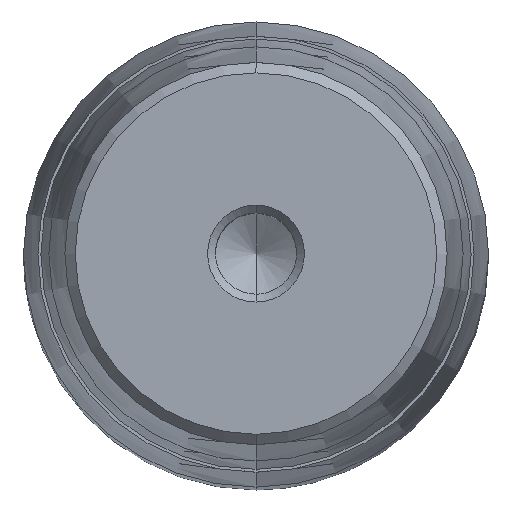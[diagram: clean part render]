
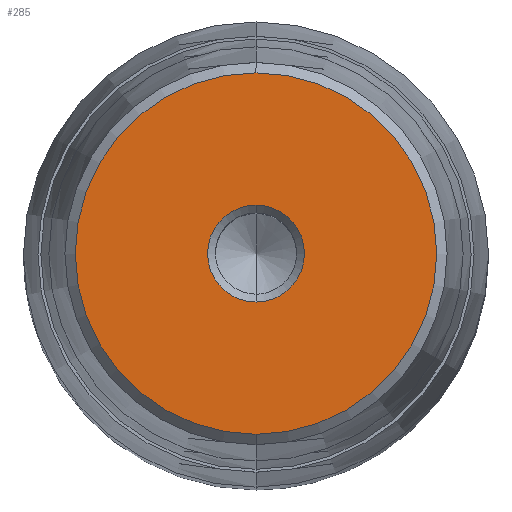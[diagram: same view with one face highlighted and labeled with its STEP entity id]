
A CAD part, top view. The second image highlights one B-rep face of the part: STEP entity #285.
In plain terms, the highlighted planar face has unit normal (0, 0, 1).
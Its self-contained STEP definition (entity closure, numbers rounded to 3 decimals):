
#164=CARTESIAN_POINT('Axis2P3D Location',(0.,0.,58.)) ;
#168=CARTESIAN_POINT('Vertex',(5.,0.,58.)) ;
#170=CARTESIAN_POINT('Vertex',(0.,-5.,58.)) ;
#173=CARTESIAN_POINT('Axis2P3D Location',(0.,0.,58.)) ;
#177=CARTESIAN_POINT('Vertex',(0.,5.,58.)) ;
#228=CARTESIAN_POINT('Axis2P3D Location',(0.,5.,58.)) ;
#233=CARTESIAN_POINT('Axis2P3D Location',(0.,0.,58.)) ;
#237=CARTESIAN_POINT('Vertex',(0.,18.65,58.)) ;
#239=CARTESIAN_POINT('Vertex',(18.65,0.,58.)) ;
#242=CARTESIAN_POINT('Axis2P3D Location',(0.,0.,58.)) ;
#246=CARTESIAN_POINT('Vertex',(-18.65,0.,58.)) ;
#249=CARTESIAN_POINT('Axis2P3D Location',(0.,0.,58.)) ;
#253=CARTESIAN_POINT('Vertex',(0.,-18.65,58.)) ;
#256=CARTESIAN_POINT('Axis2P3D Location',(0.,0.,58.)) ;
#267=CARTESIAN_POINT('Axis2P3D Location',(0.,0.,58.)) ;
#271=CARTESIAN_POINT('Vertex',(-5.,0.,58.)) ;
#274=CARTESIAN_POINT('Axis2P3D Location',(0.,0.,58.)) ;
#165=DIRECTION('Axis2P3D Direction',(-0.,0.,1.)) ;
#174=DIRECTION('Axis2P3D Direction',(-0.,0.,1.)) ;
#229=DIRECTION('Axis2P3D Direction',(0.,0.,-1.)) ;
#230=DIRECTION('Axis2P3D XDirection',(0.,1.,0.)) ;
#234=DIRECTION('Axis2P3D Direction',(0.,0.,-1.)) ;
#243=DIRECTION('Axis2P3D Direction',(0.,0.,-1.)) ;
#250=DIRECTION('Axis2P3D Direction',(0.,0.,-1.)) ;
#257=DIRECTION('Axis2P3D Direction',(0.,0.,-1.)) ;
#268=DIRECTION('Axis2P3D Direction',(0.,0.,-1.)) ;
#275=DIRECTION('Axis2P3D Direction',(0.,0.,-1.)) ;
#166=AXIS2_PLACEMENT_3D('Circle Axis2P3D',#164,#165,$) ;
#175=AXIS2_PLACEMENT_3D('Circle Axis2P3D',#173,#174,$) ;
#231=AXIS2_PLACEMENT_3D('Plane Axis2P3D',#228,#229,#230) ;
#235=AXIS2_PLACEMENT_3D('Circle Axis2P3D',#233,#234,$) ;
#244=AXIS2_PLACEMENT_3D('Circle Axis2P3D',#242,#243,$) ;
#251=AXIS2_PLACEMENT_3D('Circle Axis2P3D',#249,#250,$) ;
#258=AXIS2_PLACEMENT_3D('Circle Axis2P3D',#256,#257,$) ;
#269=AXIS2_PLACEMENT_3D('Circle Axis2P3D',#267,#268,$) ;
#276=AXIS2_PLACEMENT_3D('Circle Axis2P3D',#274,#275,$) ;
#262=ORIENTED_EDGE('',*,*,#241,.F.) ;
#263=ORIENTED_EDGE('',*,*,#248,.F.) ;
#264=ORIENTED_EDGE('',*,*,#255,.F.) ;
#265=ORIENTED_EDGE('',*,*,#260,.F.) ;
#280=ORIENTED_EDGE('',*,*,#172,.T.) ;
#281=ORIENTED_EDGE('',*,*,#273,.T.) ;
#282=ORIENTED_EDGE('',*,*,#278,.T.) ;
#283=ORIENTED_EDGE('',*,*,#179,.T.) ;
#284=FACE_BOUND('',#279,.T.) ;
#285=ADVANCED_FACE('722-48x200x240',(#266,#284),#232,.F.) ;
#167=CIRCLE('generated circle',#166,5.) ;
#176=CIRCLE('generated circle',#175,5.) ;
#236=CIRCLE('generated circle',#235,18.65) ;
#245=CIRCLE('generated circle',#244,18.65) ;
#252=CIRCLE('generated circle',#251,18.65) ;
#259=CIRCLE('generated circle',#258,18.65) ;
#270=CIRCLE('generated circle',#269,5.) ;
#277=CIRCLE('generated circle',#276,5.) ;
#172=EDGE_CURVE('',#169,#171,#167,.F.) ;
#179=EDGE_CURVE('',#178,#169,#176,.F.) ;
#241=EDGE_CURVE('',#238,#240,#236,.T.) ;
#248=EDGE_CURVE('',#247,#238,#245,.T.) ;
#255=EDGE_CURVE('',#254,#247,#252,.T.) ;
#260=EDGE_CURVE('',#240,#254,#259,.T.) ;
#273=EDGE_CURVE('',#171,#272,#270,.T.) ;
#278=EDGE_CURVE('',#272,#178,#277,.T.) ;
#261=EDGE_LOOP('',(#262,#263,#264,#265)) ;
#279=EDGE_LOOP('',(#280,#281,#282,#283)) ;
#266=FACE_OUTER_BOUND('',#261,.T.) ;
#232=PLANE('Plane',#231) ;
#169=VERTEX_POINT('',#168) ;
#171=VERTEX_POINT('',#170) ;
#178=VERTEX_POINT('',#177) ;
#238=VERTEX_POINT('',#237) ;
#240=VERTEX_POINT('',#239) ;
#247=VERTEX_POINT('',#246) ;
#254=VERTEX_POINT('',#253) ;
#272=VERTEX_POINT('',#271) ;
